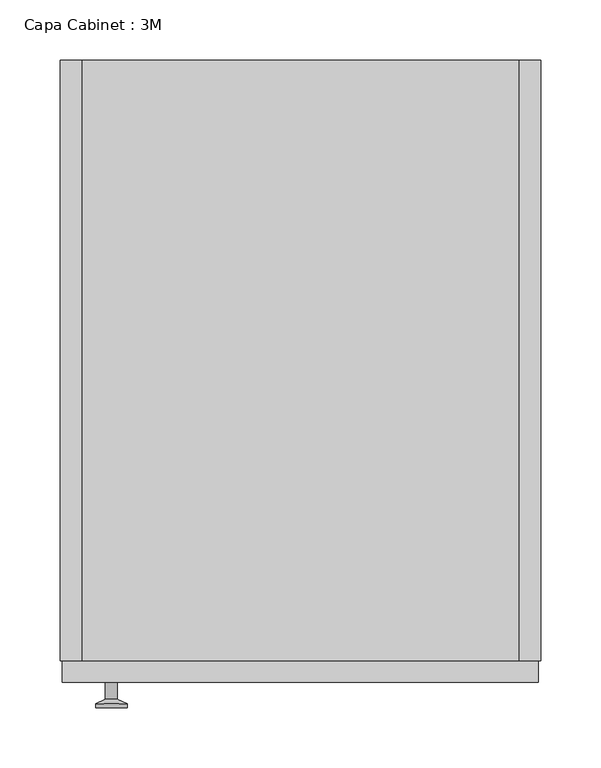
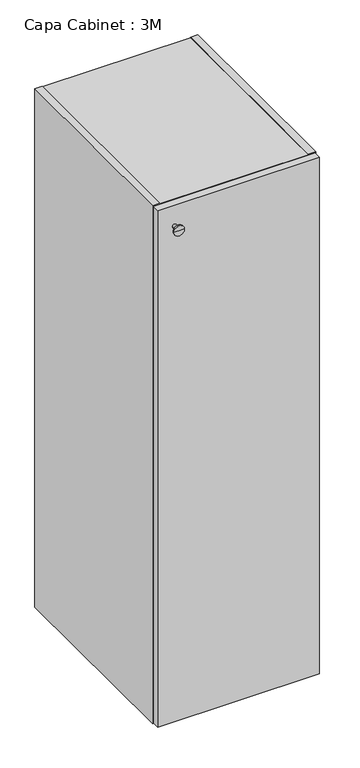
"""IFC4 building model written with IfcOpenShell, lengths in millimetres: furniture geometry, Capa Cabinet : 3M."""

import ifcopenshell
import ifcopenshell.guid

model = None  # the IFC model being written
_history = None  # IfcOwnerHistory: only IFC2X3 demands one
_inside = {}  # id of a spatial element -> (the spatial element, [elements in it])
_under = {}  # id of a project, library or spatial element -> (it, [spatial elements below it])
_declared = {}  # id of a project -> (the project, [libraries it declares])
_typed = {}  # id of a type object -> (the type object, [elements of that type])
_made_of = {}  # id of a material, layer set ... -> (it, [elements and type objects made of it])


def new_model(schema):
    """Start an empty IFC model of exactly this schema.

    Asked for "IFC4X3", IfcOpenShell would pick the latest addendum, in which some entities
    have other attributes; the version numbers below select the first issue.
    IFC2X3 requires an IfcOwnerHistory on every rooted entity: one is made here for all.
    """
    global model, _history
    if schema == "IFC4X3":
        model = ifcopenshell.file(schema_version=(4, 3, 0, 0))
    else:
        model = ifcopenshell.file(schema=schema)
    _inside.clear()
    _under.clear()
    _declared.clear()
    _typed.clear()
    _made_of.clear()
    _history = None
    if model.schema == "IFC2X3":
        org = make("IfcOrganization", Name="unknown")
        user = make(
            "IfcPersonAndOrganization",
            ThePerson=make("IfcPerson", FamilyName="unknown"),
            TheOrganization=org,
        )
        app = make(
            "IfcApplication",
            ApplicationDeveloper=org,
            Version="unknown",
            ApplicationFullName="unknown",
            ApplicationIdentifier="unknown",
        )
        _history = make(
            "IfcOwnerHistory",
            OwningUser=user,
            OwningApplication=app,
            ChangeAction="ADDED",
            CreationDate=0,
        )
    return model


def make(cls, **values):
    """One entity of the class cls with the attributes given. An attribute that is None is left unset."""
    return model.create_entity(
        cls, **{name: value for name, value in values.items() if value is not None}
    )


def rooted(cls, **values):
    """An entity with a GlobalId (a new one), such as an element, a storey or a relation."""
    return make(cls, GlobalId=ifcopenshell.guid.new(), OwnerHistory=_history, **values)


def si_unit(unit_type, name, prefix=None):
    """IfcSIUnit, for example si_unit("LENGTHUNIT", "METRE", prefix="MILLI")."""
    return make("IfcSIUnit", UnitType=unit_type, Prefix=prefix, Name=name)


def assignment(units):
    """IfcUnitAssignment: the units of a project."""
    return None if units is None else make("IfcUnitAssignment", Units=units)


def point(xyz):
    """IfcCartesianPoint."""
    return None if xyz is None else make("IfcCartesianPoint", Coordinates=xyz)


def direction(xyz):
    """IfcDirection."""
    return None if xyz is None else make("IfcDirection", DirectionRatios=xyz)


def frame(location, z_axis=None, x_axis=None):
    """IfcAxis2Placement3D, a coordinate frame: its origin and axes. An axis left out is left unset."""
    return make(
        "IfcAxis2Placement3D",
        Location=point(location),
        Axis=direction(z_axis),
        RefDirection=direction(x_axis),
    )


def origin():
    """The frame at (0, 0, 0) with its axes left unset."""
    return frame((0.0, 0.0, 0.0))


def place(relative_to, where):
    """IfcLocalPlacement: puts the frame where relative to a parent placement (None: the world)."""
    return make(
        "IfcLocalPlacement", PlacementRelTo=relative_to, RelativePlacement=where
    )


def context(
    kind, dimensions, precision=None, world=None, true_north=None, identifier=None
):
    """IfcGeometricRepresentationContext, for example the 3D "Model" context."""
    return make(
        "IfcGeometricRepresentationContext",
        ContextIdentifier=identifier,
        ContextType=kind,
        CoordinateSpaceDimension=dimensions,
        Precision=precision,
        WorldCoordinateSystem=world,
        TrueNorth=true_north,
    )


def project(units=None, contexts=None):
    """IfcProject with its units and contexts."""
    return rooted(
        "IfcProject",
        Name="project",
        RepresentationContexts=contexts,
        UnitsInContext=assignment(units),
    )


def spatial(cls, under=None, at=None, **own):
    """A site, building, storey or space (cls), placed at a placement, below another one or the project."""
    s = rooted(cls, ObjectPlacement=at, **own)
    if under is not None:
        _under.setdefault(under.id(), (under, []))[1].append(s)
    return s


def polyline(points):
    """IfcPolyline through the points."""
    return make("IfcPolyline", Points=[point(p) for p in points])


def circle_curve(where, radius):
    """IfcCircle in the frame where."""
    return make("IfcCircle", Position=where, Radius=radius)


def outline(outer, holes=None, kind="AREA"):
    """IfcArbitraryClosedProfileDef: a profile drawn as a closed curve; with holes, ...WithVoids."""
    if holes is None:
        return make("IfcArbitraryClosedProfileDef", ProfileType=kind, OuterCurve=outer)
    return make(
        "IfcArbitraryProfileDefWithVoids",
        ProfileType=kind,
        OuterCurve=outer,
        InnerCurves=holes,
    )


def extrude(swept, where, along, depth):
    """IfcExtrudedAreaSolid: the profile swept, set in the frame where, extruded along a direction by depth."""
    return make(
        "IfcExtrudedAreaSolid",
        SweptArea=swept,
        Position=where,
        ExtrudedDirection=direction(along),
        Depth=depth,
    )


def faces_of(points, faces, orient=None, outer=None):
    """IfcFace entities. A face is a list of loops; a loop is a list of indices into points, from 0.

    orient and outer hold one flag for each loop. By default every Orientation is true, the
    first loop of a face is its IfcFaceOuterBound and the others are IfcFaceBound.
    """
    made = []
    for i, loops in enumerate(faces):
        bounds = []
        for j, loop in enumerate(loops):
            is_outer = j == 0 if outer is None else outer[i][j]
            bounds.append(
                make(
                    "IfcFaceOuterBound" if is_outer else "IfcFaceBound",
                    Bound=make("IfcPolyLoop", Polygon=[points[k] for k in loop]),
                    Orientation=True if orient is None else orient[i][j],
                )
            )
        made.append(make("IfcFace", Bounds=bounds))
    return made


def faceted_brep(points, faces, orient=None, outer=None, voids=None):
    """IfcFacetedBrep: a solid bounded by flat faces; with voids (closed shells), ...WithVoids."""
    shared = [point(p) for p in points]
    hull = make("IfcClosedShell", CfsFaces=faces_of(shared, faces, orient, outer))
    if voids is None:
        return make("IfcFacetedBrep", Outer=hull)
    return make(
        "IfcFacetedBrepWithVoids",
        Outer=hull,
        Voids=[
            make(cls, CfsFaces=faces_of(shared, fs, o, b)) for cls, fs, o, b in voids
        ],
    )


def shape(context_of_items, identifier, shape_type, items):
    """IfcShapeRepresentation: the items that make up one representation, for example the "Body"."""
    return make(
        "IfcShapeRepresentation",
        ContextOfItems=context_of_items,
        RepresentationIdentifier=identifier,
        RepresentationType=shape_type,
        Items=items,
    )


def source(mapping_origin, context_of_items, identifier, shape_type, items):
    """IfcRepresentationMap: a shape defined once, which mapped items show again and again."""
    return make(
        "IfcRepresentationMap",
        MappingOrigin=mapping_origin,
        MappedRepresentation=shape(context_of_items, identifier, shape_type, items),
    )


def transform(
    local_origin,
    x_axis=None,
    y_axis=None,
    z_axis=None,
    scale=None,
    scale2=None,
    scale3=None,
    uniform=True,
):
    """IfcCartesianTransformationOperator3D, or its non-uniform kind. x_axis, y_axis, z_axis: its Axis1, 2, 3."""
    if uniform:
        return make(
            "IfcCartesianTransformationOperator3D",
            Axis1=direction(x_axis),
            Axis2=direction(y_axis),
            LocalOrigin=point(local_origin),
            Scale=scale,
            Axis3=direction(z_axis),
        )
    return make(
        "IfcCartesianTransformationOperator3DnonUniform",
        Axis1=direction(x_axis),
        Axis2=direction(y_axis),
        LocalOrigin=point(local_origin),
        Scale=scale,
        Axis3=direction(z_axis),
        Scale2=scale2,
        Scale3=scale3,
    )


def mapped(mapping_source, mapping_target):
    """IfcMappedItem: shows the shape of a source again, moved by a transform."""
    return make(
        "IfcMappedItem", MappingSource=mapping_source, MappingTarget=mapping_target
    )


def made_of(thing, what):
    """Note that an element or type object is made of a material, layer set ...; save() writes the relation."""
    if what is not None:
        _made_of.setdefault(what.id(), (what, []))[1].append(thing)
    return thing


def element(
    cls,
    number,
    at=None,
    inside=None,
    cuts=None,
    type_object=None,
    material=None,
    context=None,
    identifier="Body",
    shape_type=None,
    held_by="IfcProductDefinitionShape",
    body=None,
    shapes=None,
    **own,
):
    """One element of the class cls, such as IfcWall. Its Tag is "e" and its number.

    at: its placement. inside: the storey or other place that contains it. cuts: it is an
    opening in that element (IfcRelVoidsElement). A single representation is given by context,
    identifier, shape_type and body (its items); several are given by shapes. held_by: the class
    of the entity that holds the representations. save() writes the other relations.
    """
    e = rooted(cls, Tag="e%d" % number, ObjectPlacement=at, **own)
    if body is not None:
        shapes = [shape(context, identifier, shape_type, body)]
    if shapes is not None:
        e.Representation = make(held_by, Representations=shapes)
    if inside is not None:
        _inside.setdefault(inside.id(), (inside, []))[1].append(e)
    if cuts is not None:
        rooted(
            "IfcRelVoidsElement", RelatingBuildingElement=cuts, RelatedOpeningElement=e
        )
    if type_object is not None:
        _typed.setdefault(type_object.id(), (type_object, []))[1].append(e)
    return made_of(e, material)


def aggregate(whole, parts):
    """IfcRelAggregates: a whole, such as a stair, and the parts it consists of."""
    return rooted("IfcRelAggregates", RelatingObject=whole, RelatedObjects=parts)


def save(model, path):
    """Write the relations noted so far, then the file.

    IfcRelAggregates (storeys below a building ...), IfcRelContainedInSpatialStructure (elements
    in a storey), IfcRelDefinesByType, IfcRelAssociatesMaterial and IfcRelDeclares: one each for
    every whole, place, type object, material and project.
    """
    for whole, parts in _under.values():
        aggregate(whole, parts)
    for where, things in _inside.values():
        rooted(
            "IfcRelContainedInSpatialStructure",
            RelatedElements=things,
            RelatingStructure=where,
        )
    for kind, things in _typed.values():
        rooted("IfcRelDefinesByType", RelatedObjects=things, RelatingType=kind)
    for what, things in _made_of.values():
        rooted("IfcRelAssociatesMaterial", RelatedObjects=things, RelatingMaterial=what)
    for by, libraries in _declared.values():
        rooted("IfcRelDeclares", RelatingContext=by, RelatedDefinitions=libraries)
    model.write(path)


def plane_surface(at):
    """IfcPlane: the flat surface through the origin of the frame at, square to its z axis."""
    return make("IfcPlane", Position=at)


def cylinder_surface(at, radius):
    """IfcCylindricalSurface: all points at the distance radius from the z axis of the frame at."""
    return make("IfcCylindricalSurface", Position=at, Radius=radius)


def revolved_surface(curve, axis_point, axis_direction):
    """IfcSurfaceOfRevolution: the curve turned about the line through axis_point along axis_direction."""
    return make(
        "IfcSurfaceOfRevolution",
        SweptCurve=make("IfcArbitraryOpenProfileDef", ProfileType="CURVE", Curve=curve),
        AxisPosition=make("IfcAxis1Placement", Location=point(axis_point), Axis=direction(axis_direction)),
    )


def advanced_brep(points, edges, surfaces, faces):
    """IfcAdvancedBrep: a solid bounded by faces that lie on surfaces and meet in shared edges.

    An edge is (start, end): straight between two places in points (the first is 0);
    or (start, end, curve); or (start, end, curve, False) where it runs against its curve.
    A face is (place in surfaces, loops), or (place, loops, False) where it looks against
    its surface's normal. A loop lists edges by number (the first is 1), with a minus sign
    where the edge is run from its end to its start. The first loop is the outer one.
    """
    corners = [point(p) for p in points]
    vertices = [make("IfcVertexPoint", VertexGeometry=c) for c in corners]
    made = []
    for start, end, *more in edges:
        made.append(
            make(
                "IfcEdgeCurve",
                EdgeStart=vertices[start],
                EdgeEnd=vertices[end],
                EdgeGeometry=more[0] if more else make("IfcPolyline", Points=[corners[start], corners[end]]),
                SameSense=more[1] if len(more) > 1 else True,
            )
        )
    hull = []
    for where, loops, *sense in faces:
        bounds = []
        for j, loop in enumerate(loops):
            ring = [make("IfcOrientedEdge", EdgeElement=made[abs(k) - 1], Orientation=k > 0) for k in loop]
            bounds.append(
                make(
                    "IfcFaceOuterBound" if j == 0 else "IfcFaceBound",
                    Bound=make("IfcEdgeLoop", EdgeList=ring),
                    Orientation=True,
                )
            )
        hull.append(make("IfcAdvancedFace", Bounds=bounds, FaceSurface=surfaces[where], SameSense=sense[0] if sense else True))
    return make("IfcAdvancedBrep", Outer=make("IfcClosedShell", CfsFaces=hull))


def capa_cabinet_3m_12c83b59(model_context):
    return source(origin(), model_context, "Body", "SolidModel", [
        extrude(outline(polyline([(182.0, 0.0), (-182.0, 0.0), (-182.0, 490.0), (182.0, 490.0), (182.0, 0.0)])), frame((0.0, 0.0, 889.0), z_axis=(0.0, 0.0, 1.0), x_axis=(1.0, 0.0, 0.0)), (0.0, 0.0, 1.0), 14.0),
        extrude(outline(polyline([(182.0, 0.0), (-182.0, 0.0), (-182.0, 490.0), (182.0, 490.0), (182.0, 0.0)])), frame((0.0, 0.0, 441.0), z_axis=(0.0, 0.0, 1.0), x_axis=(1.0, 0.0, 0.0)), (0.0, 0.0, 1.0), 14.0),
        faceted_brep([(-182.0, 500.0, 1344.0), (-182.0, 500.0, 1343.0), (182.0, 500.0, 1343.0), (182.0, 500.0, 1344.0), (200.0, 500.0, 1344.0), (200.0, 500.0, 0.0), (182.0, 500.0, 0.0), (182.0, 500.0, 1.0), (-182.0, 500.0, 1.0), (-182.0, 500.0, 0.0), (-200.0, 500.0, 0.0), (-200.0, 500.0, 1344.0), (182.0, 490.0, 19.0), (182.0, 490.0, 1325.0), (-182.0, 490.0, 1325.0), (-182.0, 490.0, 19.0), (-182.0, 0.0, 1344.0), (-200.0, 0.0, 1344.0), (-200.0, 0.0, 0.0), (-182.0, 0.0, 0.0), (-182.0, 0.0, 1.0), (182.0, 0.0, 1.0), (182.0, 0.0, 0.0), (200.0, 0.0, 0.0), (200.0, 0.0, 1344.0), (182.0, 0.0, 1344.0), (182.0, 0.0, 1343.0), (-182.0, 0.0, 1343.0), (182.0, 0.0, 1325.0), (182.0, 0.0, 19.0), (-182.0, 0.0, 19.0), (-182.0, 0.0, 1325.0)], [[[0, 1, 2, 3, 4, 5, 6, 7, 8, 9, 10, 11]], [[12, 13, 14, 15]], [[16, 17, 18, 19, 20, 21, 22, 23, 24, 25, 26, 27], [28, 29, 30, 31]], [[17, 16, 0, 11]], [[18, 17, 11, 10]], [[23, 22, 6, 5]], [[24, 23, 5, 4]], [[19, 18, 10, 9]], [[20, 19, 9, 8]], [[21, 20, 8, 7]], [[22, 21, 7, 6]], [[25, 24, 4, 3]], [[26, 25, 3, 2]], [[27, 26, 2, 1]], [[16, 27, 1, 0]], [[29, 28, 13, 12]], [[30, 29, 12, 15]], [[31, 30, 15, 14]], [[28, 31, 14, 13]]]),
        extrude(outline(polyline([(198.0, -18.0), (-198.0, -18.0), (-198.0, 0.0), (198.0, 0.0), (198.0, -18.0)])), frame((0.0, 0.0, 2.0), z_axis=(0.0, 0.0, 1.0), x_axis=(1.0, 0.0, 0.0)), (0.0, 0.0, 1.0), 1340.0),
        advanced_brep(
        [(-157.2922597, -18.0, 1288.0), (-152.2922597, -18.0, 1288.0), (-162.2922597, -18.0, 1288.0), (-170.2922597, -38.997134, 1288.0), (-144.2922597, -38.997134, 1288.0), (-157.2922597, -38.997134, 1288.0), (-170.2922597, -35.5419417, 1288.0), (-144.2922597, -35.5419417, 1288.0), (-162.2922597, -31.8114804, 1288.0), (-152.2922597, -31.8114804, 1288.0)],
        [
            (0, 1),
            (1, 2, circle_curve(frame((-157.2922597, -18.0, 1288.0), z_axis=(0.0, 1.0, 0.0), x_axis=(1.0, 0.0, 0.0)), 5.0)),
            (2, 0),
            (2, 1, circle_curve(frame((-157.2922597, -18.0, 1288.0), z_axis=(0.0, 1.0, 0.0), x_axis=(1.0, 0.0, 0.0)), 5.0)),
            (3, 4, circle_curve(frame((-157.2922597, -38.997134, 1288.0), z_axis=(0.0, -1.0, 0.0), x_axis=(1.0, 0.0, 0.0)), 13.0)),
            (4, 5),
            (5, 3),
            (4, 3, circle_curve(frame((-157.2922597, -38.997134, 1288.0), z_axis=(0.0, -1.0, 0.0), x_axis=(1.0, 0.0, 0.0)), 13.0)),
            (6, 7, circle_curve(frame((-157.2922597, -35.5419417, 1288.0), z_axis=(0.0, -1.0, 0.0), x_axis=(1.0, 0.0, 0.0)), 13.0)),
            (7, 4),
            (3, 6),
            (7, 6, circle_curve(frame((-157.2922597, -35.5419417, 1288.0), z_axis=(0.0, -1.0, 0.0), x_axis=(1.0, 0.0, 0.0)), 13.0)),
            (8, 9, circle_curve(frame((-157.2922597, -31.8114804, 1288.0), z_axis=(0.0, -1.0, 0.0), x_axis=(1.0, 0.0, 0.0)), 5.0)),
            (9, 7),
            (6, 8),
            (9, 8, circle_curve(frame((-157.2922597, -31.8114804, 1288.0), z_axis=(0.0, -1.0, 0.0), x_axis=(1.0, 0.0, 0.0)), 5.0)),
            (1, 9),
            (8, 2),
        ],
        [
            plane_surface(frame((-157.2922597, -18.0, 1288.0), z_axis=(0.0, 1.0, 0.0), x_axis=(1.0, 0.0, 0.0))),
            plane_surface(frame((-157.2922597, -38.997134, 1288.0), z_axis=(0.0, -1.0, 0.0), x_axis=(1.0, 0.0, 0.0))),
            cylinder_surface(frame((-157.2922597, -38.997134, 1288.0), z_axis=(0.0, 1.0, 0.0), x_axis=(1.0, 0.0, 0.0)), 13.0),
            revolved_surface(polyline([(-144.2922597, -35.5419417, 1288.0), (-152.2922597, -31.8114804, 1288.0)]), (-157.2922597, -38.997134, 1288.0), (0.0, 1.0, 0.0)),
            cylinder_surface(frame((-157.2922597, -38.997134, 1288.0), z_axis=(0.0, 1.0, 0.0), x_axis=(1.0, 0.0, 0.0)), 5.0),
        ],
        [
            (0, [[1, 2, 3]]),
            (0, [[-3, 4, -1]]),
            (1, [[5, 6, 7]]),
            (1, [[8, -7, -6]]),
            (2, [[9, 10, -5, 11]]),
            (2, [[12, -11, -8, -10]]),
            (3, [[13, 14, -9, 15]]),
            (3, [[16, -15, -12, -14]]),
            (4, [[-2, 17, -13, 18]]),
            (4, [[-4, -18, -16, -17]]),
        ],
    ),
    ])


if __name__ == "__main__":
    model = new_model("IFC4")
    model_context = context("Model", 3, world=origin())
    ifc_project = project(units=[si_unit("LENGTHUNIT", "METRE", prefix="MILLI")], contexts=[model_context])
    site = spatial("IfcSite", under=ifc_project)
    building = spatial("IfcBuilding", under=site)
    placement = place(None, origin())
    capa_cabinet_3m_shape = capa_cabinet_3m_12c83b59(model_context)
    element("IfcFurniture", 1, ObjectType="Capa Cabinet : 3M", at=placement, inside=building, context=model_context, shape_type="MappedRepresentation", body=[
        mapped(capa_cabinet_3m_shape, transform((0.0, 0.0, 0.0), x_axis=(1.0, 0.0, 0.0), y_axis=(0.0, 1.0, 0.0), z_axis=(0.0, 0.0, 1.0))),
    ])
    save(model, "model.ifc")
